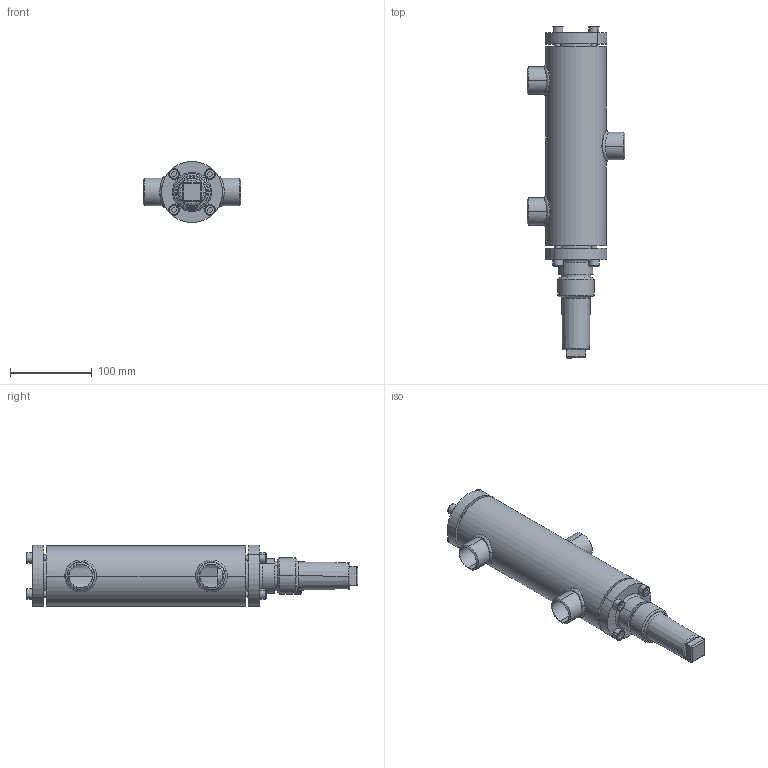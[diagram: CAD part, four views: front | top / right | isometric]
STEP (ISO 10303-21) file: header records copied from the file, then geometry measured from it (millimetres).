
FILE_DESCRIPTION (( 'STEP AP214' ), '1' );
FILE_NAME ('WVR24000D12-DN025_R1_PS40.STEP', '2010-09-08T08:20:20', ( 'Eckhard Grams' ), ( 'AWP Kälte Klima Armaturen GmbH' ), 'SwSTEP 2.0', 'SolidWorks 2002296', '' );
FILE_SCHEMA (( 'AUTOMOTIVE_DESIGN' ));
Length unit declared in the file: millimetre
Products named in the file (11): WVR24000D12-DN025_R1_PS40; Kappe 16402-13_DN10-32 (M36x2)_Standard; AVR26300E13_Deck+Schr-DN25-32_Standard; Deckel26300E13-DN25-32_Standard; Geh,kpl24000E12_DN25_R1_PS40_Standard; Gehäuse24000E12-DN25_R1_PS40_Standard; Rohrstutzen-24000E12-DN25_R1_Standard; Schw-24000E12-DN25_Standard; WVB-R23000E13_Deck+Schr-DN25-32_Standard; Deckel23000E13-DN25-32_Standard; Zylinderschraube-DIN912_M 8x  25
Assembly tree (21 placements, depth 3):
  WVR24000D12-DN025_R1_PS40
    Geh,kpl24000E12_DN25_R1_PS40_Standard
      Schw-24000E12-DN25_Standard  x3
      Rohrstutzen-24000E12-DN25_R1_Standard  x3
      Gehäuse24000E12-DN25_R1_PS40_Standard
    WVB-R23000E13_Deck+Schr-DN25-32_Standard
      Zylinderschraube-DIN912_M 8x  25  x4
      Deckel23000E13-DN25-32_Standard
    AVR26300E13_Deck+Schr-DN25-32_Standard
      Zylinderschraube-DIN912_M 8x  25  x4
      Deckel26300E13-DN25-32_Standard
    Kappe 16402-13_DN10-32 (M36x2)_Standard
Bounding box: 120 x 406.5 x 74.71 mm (x, y, z)
Volume: 961643.6 mm3; surface area: 184800.5 mm2
Topology: 18 solids, 18 shells, 389 faces, 887 edges, 559 vertices
Faces by surface type: cylinder 164, plane 127, cone 39, torus 37, bspline 22
Entity records: 21076 total; most frequent: CARTESIAN_POINT 15001, DIRECTION 1149, ORIENTED_EDGE 1062, EDGE_CURVE 531, AXIS2_PLACEMENT_3D 488, VERTEX_POINT 335, EDGE_LOOP 272, CIRCLE 250
